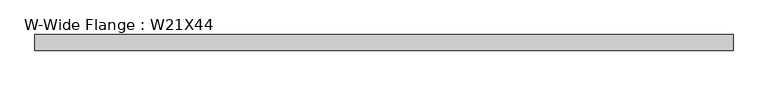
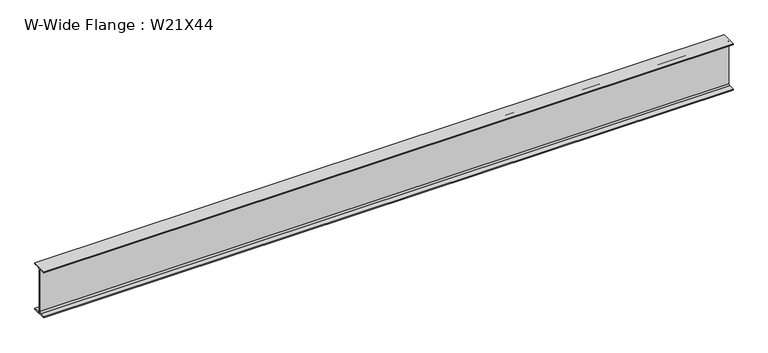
"""IFC4 building model written with IfcOpenShell, lengths in millimetres: beam geometry, W-Wide Flange : W21X44."""

from ifc_helpers import new_model, si_unit, point, frame, frame_2d, origin, place, context, project, spatial, polyline, circle_curve, trimmed, segment, composite_curve, outline, extrude, source, transform, mapped, element, save


def w_wide_flange_w21x44_417b1038(model_context):
    return source(origin(), model_context, "Body", "SweptSolid", [
        extrude(outline(composite_curve([segment(polyline([(82.55, -251.46), (82.55, -262.89), (-82.55, -262.89), (-82.55, -251.46), (-21.59, -251.46)]), True, "CONTINUOUS"), segment(trimmed(circle_curve(frame_2d((-21.59, -234.315)), 17.145), [point((-21.59, -251.46))], [point((-4.445, -234.315))], True, "CARTESIAN"), True, "CONTINUOUS"), segment(polyline([(-4.445, -234.315), (-4.445, 234.315)]), True, "CONTINUOUS"), segment(trimmed(circle_curve(frame_2d((-21.59, 234.315)), 17.145), [point((-4.445, 234.315))], [point((-21.59, 251.46))], True, "CARTESIAN"), True, "CONTINUOUS"), segment(polyline([(-21.59, 251.46), (-82.55, 251.46), (-82.55, 262.89), (82.55, 262.89), (82.55, 251.46), (21.59, 251.46)]), True, "CONTINUOUS"), segment(trimmed(circle_curve(frame_2d((21.59, 234.315)), 17.145), [point((21.59, 251.46))], [point((4.445, 234.315))], True, "CARTESIAN"), True, "CONTINUOUS"), segment(polyline([(4.445, 234.315), (4.445, -234.315)]), True, "CONTINUOUS"), segment(trimmed(circle_curve(frame_2d((21.59, -234.315)), 17.145), [point((4.445, -234.315))], [point((21.59, -251.46))], True, "CARTESIAN"), True, "CONTINUOUS"), segment(polyline([(21.59, -251.46), (82.55, -251.46)]), True, "CONTINUOUS")], self_intersect=False)), frame((-3654.3753906, 0.0, 0.0), z_axis=(1.0, 0.0, 0.0), x_axis=(0.0, 1.0, 0.0)), (0.0, 0.0, 1.0), 7377.8566406),
    ])


if __name__ == "__main__":
    model = new_model("IFC4")
    model_context = context("Model", 3, world=origin())
    ifc_project = project(units=[si_unit("LENGTHUNIT", "METRE", prefix="MILLI")], contexts=[model_context])
    site = spatial("IfcSite", under=ifc_project)
    building = spatial("IfcBuilding", under=site)
    placement = place(None, origin())
    w_wide_flange_w21x44_shape = w_wide_flange_w21x44_417b1038(model_context)
    element("IfcBeam", 1, ObjectType="W-Wide Flange : W21X44", at=placement, inside=building, context=model_context, shape_type="MappedRepresentation", body=[
        mapped(w_wide_flange_w21x44_shape, transform((0.0, 0.0, 0.0), x_axis=(1.0, 0.0, 0.0), y_axis=(0.0, 1.0, 0.0), z_axis=(0.0, 0.0, 1.0))),
    ])
    save(model, "model.ifc")
